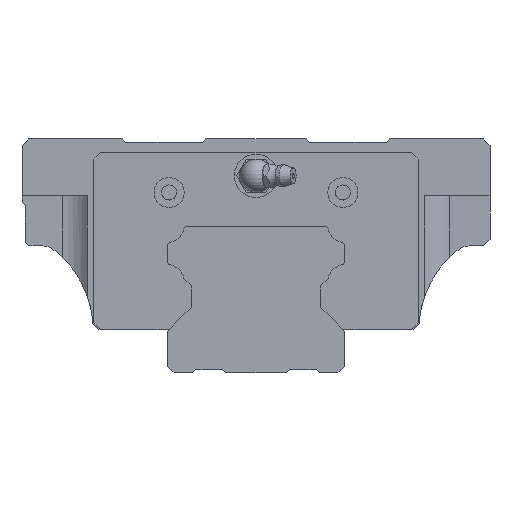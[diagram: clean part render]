
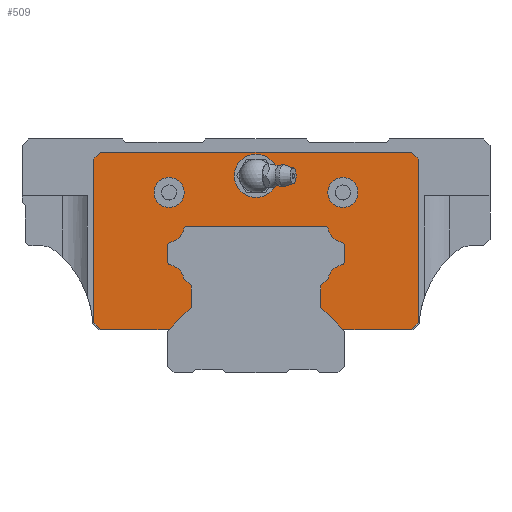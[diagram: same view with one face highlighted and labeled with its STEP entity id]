
A CAD part, front view. The second image highlights one B-rep face of the part: STEP entity #509.
In plain terms, the highlighted planar face has unit normal (0, -1, 0).
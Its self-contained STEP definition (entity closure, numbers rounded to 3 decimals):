
#194=FACE_BOUND('',#1020,.T.);
#195=FACE_BOUND('',#1022,.T.);
#196=FACE_BOUND('',#1023,.T.);
#304=CIRCLE('',#3690,1.);
#306=CIRCLE('',#3694,1.);
#308=CIRCLE('',#3697,5.15);
#310=CIRCLE('',#3700,1.);
#312=CIRCLE('',#3704,1.);
#314=CIRCLE('',#3707,5.15);
#316=CIRCLE('',#3727,5.15);
#318=CIRCLE('',#3730,1.);
#320=CIRCLE('',#3734,1.);
#322=CIRCLE('',#3737,5.15);
#331=CIRCLE('',#3767,6.5);
#332=CIRCLE('',#3768,4.5);
#333=CIRCLE('',#3769,4.5);
#509=ADVANCED_FACE('',(#194,#827,#195,#196),#668,.F.);
#668=PLANE('',#3770);
#827=FACE_OUTER_BOUND('',#1021,.T.);
#1020=EDGE_LOOP('',(#2350));
#1021=EDGE_LOOP('',(#2351,#2352,#2353,#2354,#2355,#2356,#2357,#2358,#2359,
#2360,#2361,#2362,#2363,#2364,#2365,#2366,#2367,#2368,#2369,#2370,#2371,
#2372,#2373,#2374,#2375,#2376,#2377,#2378));
#1022=EDGE_LOOP('',(#2379));
#1023=EDGE_LOOP('',(#2380));
#1305=LINE('',#5581,#1618);
#1311=LINE('',#5605,#1624);
#1316=LINE('',#5623,#1629);
#1319=LINE('',#5629,#1632);
#1322=LINE('',#5635,#1635);
#1326=LINE('',#5642,#1639);
#1336=LINE('',#5665,#1649);
#1340=LINE('',#5673,#1653);
#1343=LINE('',#5679,#1656);
#1346=LINE('',#5685,#1659);
#1351=LINE('',#5703,#1664);
#1369=LINE('',#5772,#1682);
#1370=LINE('',#5775,#1683);
#1371=LINE('',#5777,#1684);
#1372=LINE('',#5779,#1685);
#1373=LINE('',#5781,#1686);
#1374=LINE('',#5782,#1687);
#1375=LINE('',#5784,#1688);
#1618=VECTOR('',#4276,1.);
#1624=VECTOR('',#4302,1.);
#1629=VECTOR('',#4321,1.);
#1632=VECTOR('',#4326,1.);
#1635=VECTOR('',#4331,1.);
#1639=VECTOR('',#4337,1.);
#1649=VECTOR('',#4367,1.);
#1653=VECTOR('',#4373,1.);
#1656=VECTOR('',#4378,1.);
#1659=VECTOR('',#4383,1.);
#1664=VECTOR('',#4402,1.);
#1682=VECTOR('',#4492,1.);
#1683=VECTOR('',#4493,1.);
#1684=VECTOR('',#4494,1.);
#1685=VECTOR('',#4495,1.);
#1686=VECTOR('',#4496,1.);
#1687=VECTOR('',#4497,1.);
#1688=VECTOR('',#4498,1.);
#2350=ORIENTED_EDGE('',*,*,#3391,.F.);
#2351=ORIENTED_EDGE('',*,*,#3392,.F.);
#2352=ORIENTED_EDGE('',*,*,#3393,.F.);
#2353=ORIENTED_EDGE('',*,*,#3394,.F.);
#2354=ORIENTED_EDGE('',*,*,#3395,.F.);
#2355=ORIENTED_EDGE('',*,*,#3396,.F.);
#2356=ORIENTED_EDGE('',*,*,#3342,.F.);
#2357=ORIENTED_EDGE('',*,*,#3346,.F.);
#2358=ORIENTED_EDGE('',*,*,#3349,.F.);
#2359=ORIENTED_EDGE('',*,*,#3352,.F.);
#2360=ORIENTED_EDGE('',*,*,#3355,.F.);
#2361=ORIENTED_EDGE('',*,*,#3358,.F.);
#2362=ORIENTED_EDGE('',*,*,#3361,.F.);
#2363=ORIENTED_EDGE('',*,*,#3364,.F.);
#2364=ORIENTED_EDGE('',*,*,#3366,.F.);
#2365=ORIENTED_EDGE('',*,*,#3298,.F.);
#2366=ORIENTED_EDGE('',*,*,#3301,.F.);
#2367=ORIENTED_EDGE('',*,*,#3304,.F.);
#2368=ORIENTED_EDGE('',*,*,#3307,.F.);
#2369=ORIENTED_EDGE('',*,*,#3310,.F.);
#2370=ORIENTED_EDGE('',*,*,#3313,.F.);
#2371=ORIENTED_EDGE('',*,*,#3316,.F.);
#2372=ORIENTED_EDGE('',*,*,#3319,.F.);
#2373=ORIENTED_EDGE('',*,*,#3322,.F.);
#2374=ORIENTED_EDGE('',*,*,#3325,.F.);
#2375=ORIENTED_EDGE('',*,*,#3328,.F.);
#2376=ORIENTED_EDGE('',*,*,#3332,.F.);
#2377=ORIENTED_EDGE('',*,*,#3397,.F.);
#2378=ORIENTED_EDGE('',*,*,#3398,.F.);
#2379=ORIENTED_EDGE('',*,*,#3399,.F.);
#2380=ORIENTED_EDGE('',*,*,#3400,.F.);
#2902=VERTEX_POINT('',#5569);
#2905=VERTEX_POINT('',#5574);
#2907=VERTEX_POINT('',#5580);
#2909=VERTEX_POINT('',#5586);
#2911=VERTEX_POINT('',#5592);
#2913=VERTEX_POINT('',#5598);
#2915=VERTEX_POINT('',#5604);
#2917=VERTEX_POINT('',#5610);
#2919=VERTEX_POINT('',#5616);
#2921=VERTEX_POINT('',#5622);
#2923=VERTEX_POINT('',#5628);
#2925=VERTEX_POINT('',#5634);
#2927=VERTEX_POINT('',#5641);
#2930=VERTEX_POINT('',#5664);
#2931=VERTEX_POINT('',#5666);
#2933=VERTEX_POINT('',#5672);
#2935=VERTEX_POINT('',#5678);
#2937=VERTEX_POINT('',#5684);
#2939=VERTEX_POINT('',#5690);
#2941=VERTEX_POINT('',#5696);
#2943=VERTEX_POINT('',#5702);
#2945=VERTEX_POINT('',#5708);
#2958=VERTEX_POINT('',#5771);
#2959=VERTEX_POINT('',#5773);
#2960=VERTEX_POINT('',#5774);
#2961=VERTEX_POINT('',#5776);
#2962=VERTEX_POINT('',#5778);
#2963=VERTEX_POINT('',#5780);
#2964=VERTEX_POINT('',#5783);
#2965=VERTEX_POINT('',#5786);
#2966=VERTEX_POINT('',#5788);
#3298=EDGE_CURVE('',#2905,#2902,#304,.T.);
#3301=EDGE_CURVE('',#2907,#2905,#1305,.T.);
#3304=EDGE_CURVE('',#2909,#2907,#306,.T.);
#3307=EDGE_CURVE('',#2911,#2909,#308,.T.);
#3310=EDGE_CURVE('',#2913,#2911,#310,.T.);
#3313=EDGE_CURVE('',#2915,#2913,#1311,.T.);
#3316=EDGE_CURVE('',#2917,#2915,#312,.T.);
#3319=EDGE_CURVE('',#2919,#2917,#314,.T.);
#3322=EDGE_CURVE('',#2921,#2919,#1316,.T.);
#3325=EDGE_CURVE('',#2923,#2921,#1319,.T.);
#3328=EDGE_CURVE('',#2925,#2923,#1322,.T.);
#3332=EDGE_CURVE('',#2927,#2925,#1326,.T.);
#3342=EDGE_CURVE('',#2930,#2931,#1336,.T.);
#3346=EDGE_CURVE('',#2933,#2930,#1340,.T.);
#3349=EDGE_CURVE('',#2935,#2933,#1343,.T.);
#3352=EDGE_CURVE('',#2937,#2935,#1346,.T.);
#3355=EDGE_CURVE('',#2939,#2937,#316,.T.);
#3358=EDGE_CURVE('',#2941,#2939,#318,.T.);
#3361=EDGE_CURVE('',#2943,#2941,#1351,.T.);
#3364=EDGE_CURVE('',#2945,#2943,#320,.T.);
#3366=EDGE_CURVE('',#2902,#2945,#322,.T.);
#3391=EDGE_CURVE('',#2958,#2958,#331,.T.);
#3392=EDGE_CURVE('',#2959,#2960,#1369,.T.);
#3393=EDGE_CURVE('',#2961,#2959,#1370,.T.);
#3394=EDGE_CURVE('',#2962,#2961,#1371,.T.);
#3395=EDGE_CURVE('',#2963,#2962,#1372,.T.);
#3396=EDGE_CURVE('',#2931,#2963,#1373,.T.);
#3397=EDGE_CURVE('',#2964,#2927,#1374,.T.);
#3398=EDGE_CURVE('',#2960,#2964,#1375,.T.);
#3399=EDGE_CURVE('',#2965,#2965,#332,.T.);
#3400=EDGE_CURVE('',#2966,#2966,#333,.T.);
#3690=AXIS2_PLACEMENT_3D('',#5575,#4270,#4271);
#3694=AXIS2_PLACEMENT_3D('',#5587,#4282,#4283);
#3697=AXIS2_PLACEMENT_3D('',#5593,#4289,#4290);
#3700=AXIS2_PLACEMENT_3D('',#5599,#4296,#4297);
#3704=AXIS2_PLACEMENT_3D('',#5611,#4308,#4309);
#3707=AXIS2_PLACEMENT_3D('',#5617,#4315,#4316);
#3727=AXIS2_PLACEMENT_3D('',#5691,#4389,#4390);
#3730=AXIS2_PLACEMENT_3D('',#5697,#4396,#4397);
#3734=AXIS2_PLACEMENT_3D('',#5709,#4408,#4409);
#3737=AXIS2_PLACEMENT_3D('',#5712,#4414,#4415);
#3767=AXIS2_PLACEMENT_3D('',#5770,#4490,#4491);
#3768=AXIS2_PLACEMENT_3D('',#5785,#4499,#4500);
#3769=AXIS2_PLACEMENT_3D('',#5787,#4501,#4502);
#3770=AXIS2_PLACEMENT_3D('',#5789,#4503,#4504);
#4270=DIRECTION('',(0.,-1.,0.));
#4271=DIRECTION('',(1.,0.,0.));
#4276=DIRECTION('',(-1.,0.,0.));
#4282=DIRECTION('',(0.,-1.,0.));
#4283=DIRECTION('',(-1.,0.,0.));
#4289=DIRECTION('',(0.,1.,0.));
#4290=DIRECTION('',(-1.,0.,0.));
#4296=DIRECTION('',(0.,-1.,0.));
#4297=DIRECTION('',(-1.,0.,0.));
#4302=DIRECTION('',(0.,0.,1.));
#4308=DIRECTION('',(0.,-1.,0.));
#4309=DIRECTION('',(-1.,0.,0.));
#4315=DIRECTION('',(0.,1.,0.));
#4316=DIRECTION('',(-1.,0.,0.));
#4321=DIRECTION('',(0.707,0.,0.707));
#4326=DIRECTION('',(0.,0.,1.));
#4331=DIRECTION('',(-0.707,0.,0.707));
#4337=DIRECTION('',(-1.,0.,0.));
#4367=DIRECTION('',(-1.,0.,0.));
#4373=DIRECTION('',(-0.707,0.,-0.707));
#4378=DIRECTION('',(0.,0.,-1.));
#4383=DIRECTION('',(0.707,0.,-0.707));
#4389=DIRECTION('',(0.,1.,0.));
#4390=DIRECTION('',(1.,0.,0.));
#4396=DIRECTION('',(0.,-1.,0.));
#4397=DIRECTION('',(1.,0.,0.));
#4402=DIRECTION('',(0.,0.,-1.));
#4408=DIRECTION('',(0.,-1.,0.));
#4409=DIRECTION('',(1.,0.,0.));
#4414=DIRECTION('',(0.,1.,0.));
#4415=DIRECTION('',(1.,0.,0.));
#4490=DIRECTION('',(0.,-1.,0.));
#4491=DIRECTION('',(1.,0.,0.));
#4492=DIRECTION('',(0.707,0.,-0.707));
#4493=DIRECTION('',(1.,0.,0.));
#4494=DIRECTION('',(0.707,0.,0.707));
#4495=DIRECTION('',(0.,0.,1.));
#4496=DIRECTION('',(-0.707,0.,0.707));
#4497=DIRECTION('',(-0.707,0.,-0.707));
#4498=DIRECTION('',(0.,0.,-1.));
#4499=DIRECTION('',(0.,-1.,0.));
#4500=DIRECTION('',(1.,0.,0.));
#4501=DIRECTION('',(0.,-1.,0.));
#4502=DIRECTION('',(1.,0.,0.));
#4503=DIRECTION('',(0.,1.,0.));
#4504=DIRECTION('',(0.,0.,1.));
#5569=CARTESIAN_POINT('',(-21.59,129.25,43.101));
#5574=CARTESIAN_POINT('',(-20.61,129.25,43.9));
#5575=CARTESIAN_POINT('',(-20.61,129.25,42.9));
#5580=CARTESIAN_POINT('',(20.61,129.25,43.9));
#5581=CARTESIAN_POINT('',(20.61,129.25,43.9));
#5586=CARTESIAN_POINT('',(21.59,129.25,43.101));
#5587=CARTESIAN_POINT('',(20.61,129.25,42.9));
#5592=CARTESIAN_POINT('',(25.601,129.25,39.09));
#5593=CARTESIAN_POINT('',(26.635,129.25,44.135));
#5598=CARTESIAN_POINT('',(26.4,129.25,38.11));
#5599=CARTESIAN_POINT('',(25.4,129.25,38.11));
#5604=CARTESIAN_POINT('',(26.4,129.25,33.29));
#5605=CARTESIAN_POINT('',(26.4,129.25,33.29));
#5610=CARTESIAN_POINT('',(25.601,129.25,32.31));
#5611=CARTESIAN_POINT('',(25.4,129.25,33.29));
#5616=CARTESIAN_POINT('',(21.573,129.25,28.214));
#5617=CARTESIAN_POINT('',(26.635,129.25,27.265));
#5622=CARTESIAN_POINT('',(19.4,129.25,26.041));
#5623=CARTESIAN_POINT('',(19.4,129.25,26.041));
#5628=CARTESIAN_POINT('',(19.4,129.25,19.6));
#5629=CARTESIAN_POINT('',(19.4,129.25,19.6));
#5634=CARTESIAN_POINT('',(26.,129.25,13.));
#5635=CARTESIAN_POINT('',(26.,129.25,13.));
#5641=CARTESIAN_POINT('',(46.5,129.25,13.));
#5642=CARTESIAN_POINT('',(46.5,129.25,13.));
#5664=CARTESIAN_POINT('',(-26.,129.25,13.));
#5665=CARTESIAN_POINT('',(-26.,129.25,13.));
#5666=CARTESIAN_POINT('',(-46.5,129.25,13.));
#5672=CARTESIAN_POINT('',(-19.4,129.25,19.6));
#5673=CARTESIAN_POINT('',(-19.4,129.25,19.6));
#5678=CARTESIAN_POINT('',(-19.4,129.25,26.041));
#5679=CARTESIAN_POINT('',(-19.4,129.25,26.041));
#5684=CARTESIAN_POINT('',(-21.573,129.25,28.214));
#5685=CARTESIAN_POINT('',(-21.573,129.25,28.214));
#5690=CARTESIAN_POINT('',(-25.601,129.25,32.31));
#5691=CARTESIAN_POINT('',(-26.635,129.25,27.265));
#5696=CARTESIAN_POINT('',(-26.4,129.25,33.29));
#5697=CARTESIAN_POINT('',(-25.4,129.25,33.29));
#5702=CARTESIAN_POINT('',(-26.4,129.25,38.11));
#5703=CARTESIAN_POINT('',(-26.4,129.25,38.11));
#5708=CARTESIAN_POINT('',(-25.601,129.25,39.09));
#5709=CARTESIAN_POINT('',(-25.4,129.25,38.11));
#5712=CARTESIAN_POINT('',(-26.635,129.25,44.135));
#5770=CARTESIAN_POINT('',(0.,129.25,58.997));
#5771=CARTESIAN_POINT('',(6.5,129.25,58.997));
#5772=CARTESIAN_POINT('',(46.5,129.25,66.));
#5773=CARTESIAN_POINT('',(46.5,129.25,66.));
#5774=CARTESIAN_POINT('',(48.5,129.25,64.));
#5775=CARTESIAN_POINT('',(-46.5,129.25,66.));
#5776=CARTESIAN_POINT('',(-46.5,129.25,66.));
#5777=CARTESIAN_POINT('',(-48.5,129.25,64.));
#5778=CARTESIAN_POINT('',(-48.5,129.25,64.));
#5779=CARTESIAN_POINT('',(-48.5,129.25,15.));
#5780=CARTESIAN_POINT('',(-48.5,129.25,15.));
#5781=CARTESIAN_POINT('',(-46.5,129.25,13.));
#5782=CARTESIAN_POINT('',(48.5,129.25,15.));
#5783=CARTESIAN_POINT('',(48.5,129.25,15.));
#5784=CARTESIAN_POINT('',(48.5,129.25,64.));
#5785=CARTESIAN_POINT('',(-26.,129.25,54.));
#5786=CARTESIAN_POINT('',(-21.5,129.25,54.));
#5787=CARTESIAN_POINT('',(26.,129.25,54.));
#5788=CARTESIAN_POINT('',(30.5,129.25,54.));
#5789=CARTESIAN_POINT('',(26.635,129.25,27.265));
